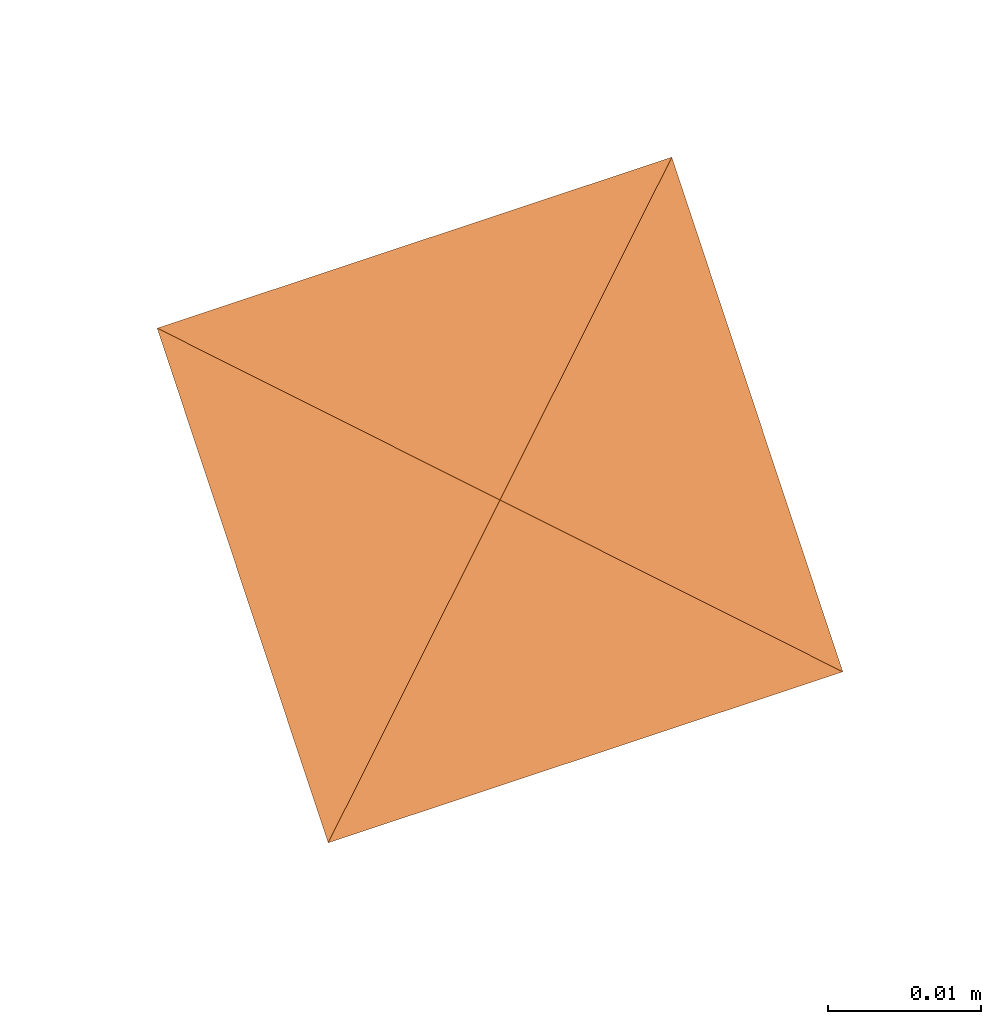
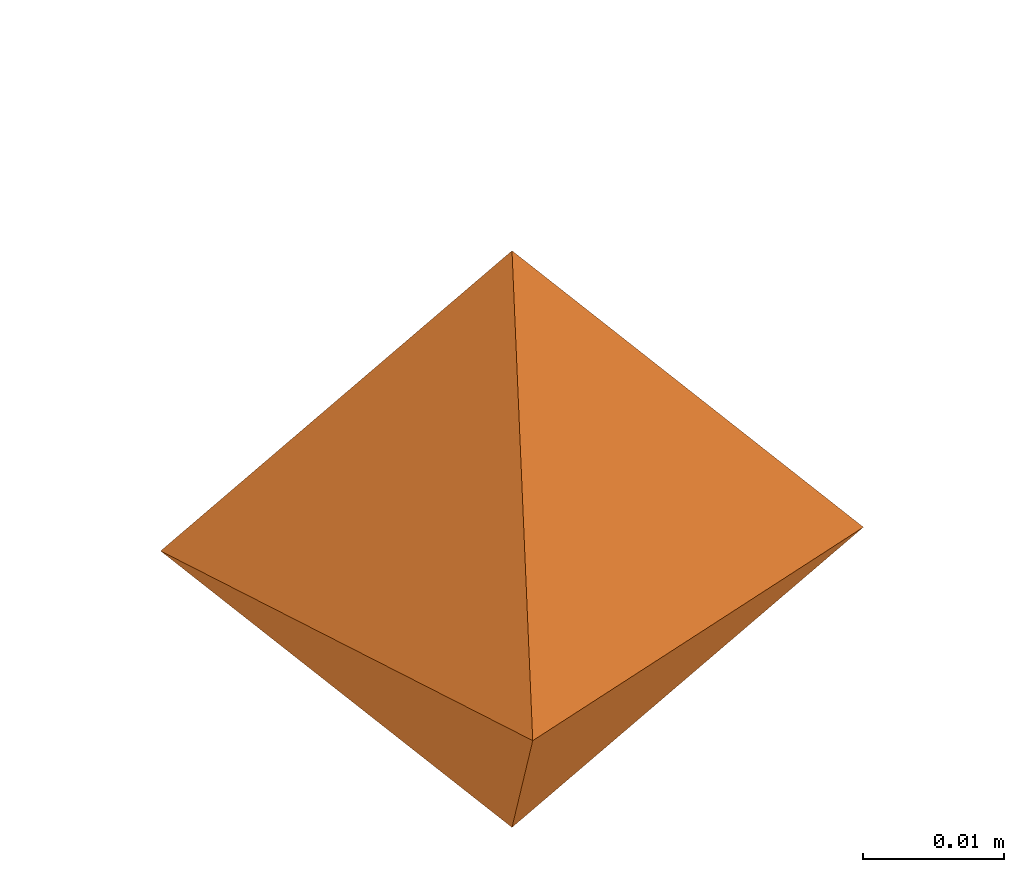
# One storey, part 192 of 206: 1 proxy.
"""IFC2X3 building model written with IfcOpenShell, lengths in metres."""

from ifc_helpers import new_model, si_unit, derived_unit, direction, frame, origin, place, context, subcontext, project, spatial, faceted_brep, type_object, element, save


model = new_model("IFC2X3")

# Units and contexts
model_context = context("Model", 3, precision=5.2338327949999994e-05, world=origin(), true_north=direction((0.0, 1.0)))
body_context = subcontext(model_context, "Body", "Model", "MODEL_VIEW")
ifc_project = project(units=[si_unit("LENGTHUNIT", "METRE"), si_unit("AREAUNIT", "SQUARE_METRE"), si_unit("VOLUMEUNIT", "CUBIC_METRE"), si_unit("MASSUNIT", "GRAM", prefix="KILO"), si_unit("PLANEANGLEUNIT", "RADIAN"), derived_unit("THERMALTRANSMITTANCEUNIT", [(si_unit("MASSUNIT", "GRAM", prefix="KILO"), 1), (si_unit("THERMODYNAMICTEMPERATUREUNIT", "KELVIN"), -1), (si_unit("TIMEUNIT", "SECOND"), -3)])], contexts=[model_context])

# Site, building, storey
site_placement = place(None, frame((0.0, 0.0, 0.0), z_axis=(0.0, 0.0, 1.0), x_axis=(0.8939966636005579, -0.4480736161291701, 0.0)))
site = spatial("IfcSite", under=ifc_project, at=site_placement, Name="Default", CompositionType="ELEMENT")
building_placement = place(site_placement, origin())
building = spatial("IfcBuilding", under=site, at=building_placement, CompositionType="ELEMENT")
storey_placement = place(building_placement, origin())
storey = spatial("IfcBuildingStorey", under=building, at=storey_placement, Name="Erdgeschoss", CompositionType="ELEMENT", Elevation=0.0)

# Proxy
building_element_proxy_type = type_object("IfcBuildingElementProxyType", Name="DirectShape:Gebäudeautomation", PredefinedType="NOTDEFINED")
proxy_placement = place(storey_placement, origin())
element("IfcBuildingElementProxy", 1, at=proxy_placement, inside=storey, type_object=building_element_proxy_type, Name="DirectShape:Schaltschrank Aussenfühler", context=body_context, shape_type="Brep", body=[
    faceted_brep([(4.855071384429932, 0.11542905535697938, 0.0), (4.830071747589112, 0.11542905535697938, 0.025000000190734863), (4.855071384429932, 0.14042905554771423, 0.025000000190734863), (4.855071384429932, 0.09042905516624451, 0.025000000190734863), (4.880071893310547, 0.11542905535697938, 0.025000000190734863), (4.855071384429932, 0.11542905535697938, 0.05000000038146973)], [[[0, 1, 2]], [[0, 3, 1]], [[0, 4, 3]], [[0, 2, 4]], [[5, 2, 1]], [[5, 1, 3]], [[5, 3, 4]], [[5, 4, 2]]]),
])

save(model, "model.ifc")
